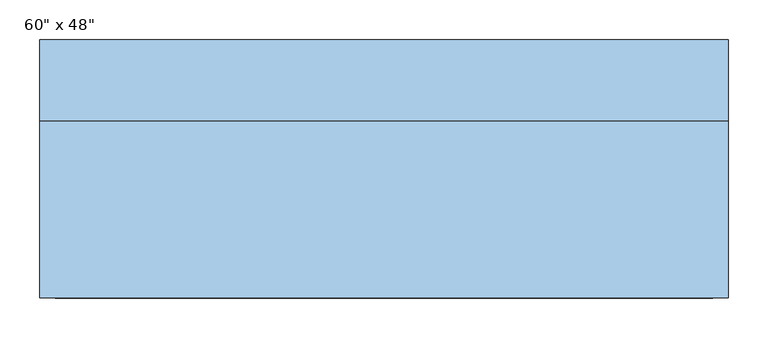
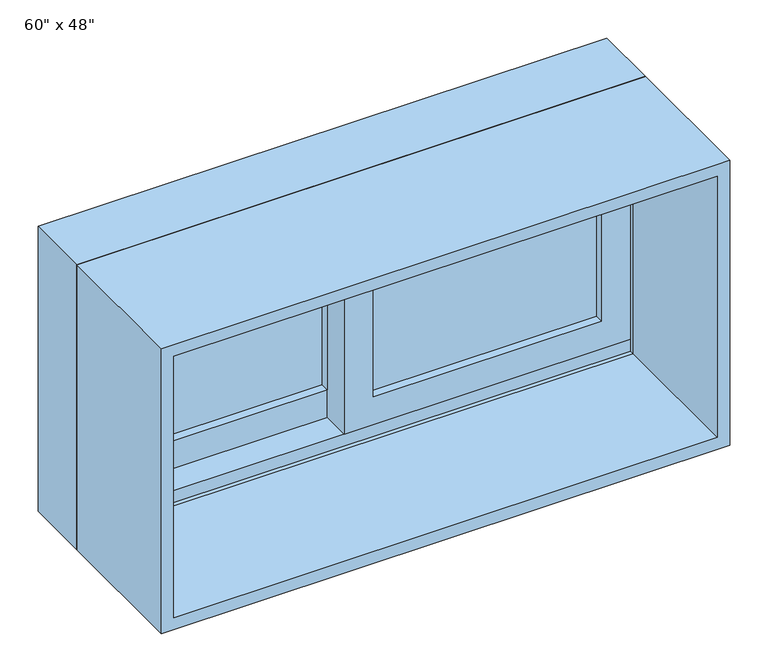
"""IFC4 building model written with IfcOpenShell, lengths in millimetres: window geometry."""

from ifc_helpers import new_model, si_unit, frame, origin, place, context, project, spatial, polyline, outline, extrude, faceted_brep, source, transform, mapped, element, save


def window_06d2bc5f(model_context):
    return source(origin(), model_context, "Body", "SolidModel", [
        extrude(outline(polyline([(933.45, -412.75), (933.45, 22.225), (1352.55, 22.225), (1352.55, -412.75), (933.45, -412.75)]), holes=[polyline([(1308.1, -22.225), (996.95, -22.225), (996.95, -368.3), (1308.1, -368.3), (1308.1, -22.225)])]), frame((0.0, 116.84, 0.0), z_axis=(0.0, 1.0, 0.0), x_axis=(0.0, 0.0, 1.0)), (0.0, 0.0, 1.0), 44.45),
        extrude(outline(polyline([(952.5, 412.75), (1352.55, 412.75), (1352.55, -22.225), (952.5, -22.225), (952.5, 412.75)]), holes=[polyline([(996.95, 22.225), (1308.1, 22.225), (1308.1, 368.3), (996.95, 368.3), (996.95, 22.225)])]), frame((0.0, 72.39, 0.0), z_axis=(0.0, 1.0, 0.0), x_axis=(0.0, 0.0, 1.0)), (0.0, 0.0, 1.0), 44.45),
        faceted_brep([(-431.8, 66.04, 914.4), (-431.8, 167.64, 914.4), (431.8, 167.64, 914.4), (431.8, 66.04, 914.4), (-390.8778905, 167.64, 1330.6778905), (-390.8778905, 161.29, 1330.6778905), (-390.8778905, 161.29, 933.45), (-390.8778905, 167.64, 933.45), (390.8778905, 161.29, 1330.6778905), (390.8778905, 161.29, 933.45), (412.75, 161.29, 933.45), (412.75, 161.29, 1352.55), (-412.75, 161.29, 1352.55), (-412.75, 161.29, 933.45), (-412.75, 66.04, 1352.55), (-412.75, 66.04, 933.45), (-412.75, 72.39, 933.45), (-412.75, 72.39, 952.5), (-412.75, 116.84, 952.5), (-412.75, 116.84, 933.45), (431.8, 66.04, 1371.6), (-431.8, 66.04, 1371.6), (412.75, 66.04, 1352.55), (412.75, 66.04, 933.45), (-431.8, 167.64, 1371.6), (431.8, 167.64, 1371.6), (390.8778905, 167.64, 933.45), (390.8778905, 167.64, 1330.6778905), (412.75, 116.84, 933.45), (412.75, 116.84, 952.5), (412.75, 72.39, 952.5), (412.75, 72.39, 933.45)], [[[0, 1, 2, 3]], [[4, 5, 6, 7]], [[5, 8, 9, 10, 11, 12, 13, 6]], [[12, 14, 15, 16, 17, 18, 19, 13]], [[0, 3, 20, 21], [22, 23, 15, 14]], [[24, 1, 0, 21]], [[2, 1, 24, 25], [4, 7, 26, 27]], [[5, 4, 27, 8]], [[12, 11, 22, 14]], [[21, 20, 25, 24]], [[8, 27, 26, 9]], [[22, 11, 10, 28, 29, 30, 31, 23]], [[20, 3, 2, 25]], [[26, 7, 6, 13, 19, 28, 10, 9]], [[28, 19, 18, 29]], [[29, 18, 17, 30]], [[30, 17, 16, 31]], [[15, 23, 31, 16]]]),
        extrude(outline(polyline([(1371.6, -431.8), (914.4, -431.8), (914.4, 431.8), (1371.6, 431.8), (1371.6, -431.8)]), holes=[polyline([(1352.55, 412.75), (933.45, 412.75), (933.45, -412.75), (1352.55, -412.75), (1352.55, 412.75)])]), frame((0.0, -156.21, 0.0), z_axis=(0.0, 1.0, 0.0), x_axis=(0.0, 0.0, 1.0)), (0.0, 0.0, 1.0), 222.25),
        extrude(outline(polyline([(368.3, 104.14), (368.3, 97.79), (22.225, 97.79), (22.225, 104.14), (368.3, 104.14)])), frame((0.0, 0.0, 996.95), z_axis=(0.0, 0.0, 1.0), x_axis=(1.0, 0.0, 0.0)), (0.0, 0.0, 1.0), 311.15),
        extrude(outline(polyline([(368.3, 91.44), (368.3, 85.09), (22.225, 85.09), (22.225, 91.44), (368.3, 91.44)])), frame((0.0, 0.0, 996.95), z_axis=(0.0, 0.0, 1.0), x_axis=(1.0, 0.0, 0.0)), (0.0, 0.0, 1.0), 311.15),
        extrude(outline(polyline([(-22.225, 148.59), (-22.225, 142.24), (-368.3, 142.24), (-368.3, 148.59), (-22.225, 148.59)])), frame((0.0, 0.0, 996.95), z_axis=(0.0, 0.0, 1.0), x_axis=(1.0, 0.0, 0.0)), (0.0, 0.0, 1.0), 311.15),
        extrude(outline(polyline([(-22.225, 135.89), (-22.225, 129.54), (-368.3, 129.54), (-368.3, 135.89), (-22.225, 135.89)])), frame((0.0, 0.0, 996.95), z_axis=(0.0, 0.0, 1.0), x_axis=(1.0, 0.0, 0.0)), (0.0, 0.0, 1.0), 311.15),
    ])


if __name__ == "__main__":
    model = new_model("IFC4")
    model_context = context("Model", 3, world=origin())
    ifc_project = project(units=[si_unit("LENGTHUNIT", "METRE", prefix="MILLI")], contexts=[model_context])
    site = spatial("IfcSite", under=ifc_project)
    building = spatial("IfcBuilding", under=site)
    placement = place(None, origin())
    window_shape = window_06d2bc5f(model_context)
    element("IfcWindow", 1, ObjectType="Planitar-Sliding-Double : 60\" x 48\"", at=placement, inside=building, context=model_context, shape_type="MappedRepresentation", body=[
        mapped(window_shape, transform((0.0, 0.0, 0.0), x_axis=(1.0, 0.0, 0.0), y_axis=(0.0, 1.0, 0.0), z_axis=(0.0, 0.0, 1.0))),
    ])
    save(model, "model.ifc")
